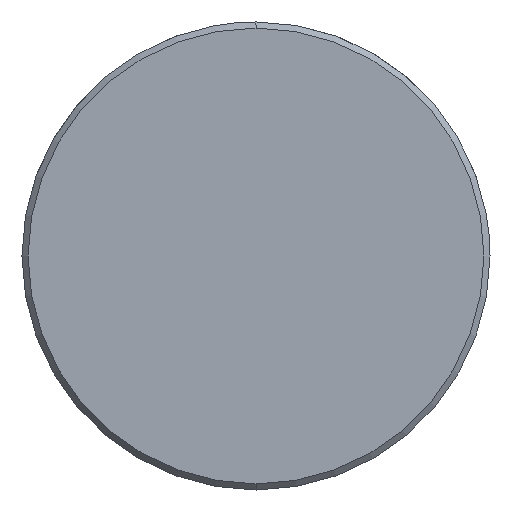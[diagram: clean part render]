
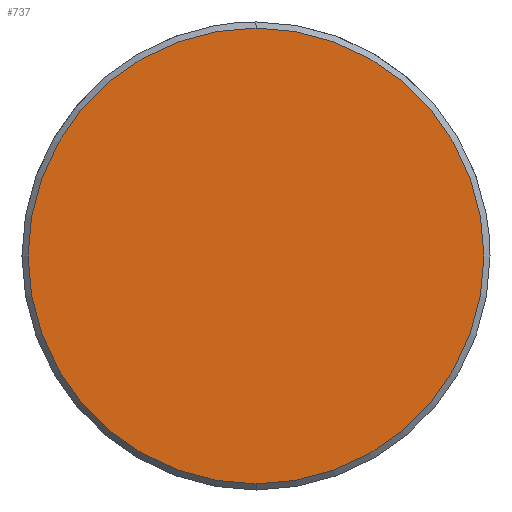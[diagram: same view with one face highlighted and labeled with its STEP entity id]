
A CAD part, left-side view. The second image highlights one B-rep face of the part: STEP entity #737.
In plain terms, the highlighted planar face has unit normal (-1, 0, 0).
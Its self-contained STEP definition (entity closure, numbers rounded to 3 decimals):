
#669=CARTESIAN_POINT('Vertex',(0.,0.,-11.2)) ;
#672=CARTESIAN_POINT('Axis2P3D Location',(0.,0.,0.)) ;
#676=CARTESIAN_POINT('Vertex',(0.,11.2,0.)) ;
#679=CARTESIAN_POINT('Axis2P3D Location',(0.,0.,0.)) ;
#683=CARTESIAN_POINT('Vertex',(0.,0.,11.2)) ;
#705=CARTESIAN_POINT('Axis2P3D Location',(0.,0.,0.)) ;
#709=CARTESIAN_POINT('Vertex',(0.,-11.2,0.)) ;
#712=CARTESIAN_POINT('Axis2P3D Location',(0.,0.,0.)) ;
#726=CARTESIAN_POINT('Axis2P3D Location',(0.,0.,0.)) ;
#673=DIRECTION('Axis2P3D Direction',(1.,0.,-0.)) ;
#680=DIRECTION('Axis2P3D Direction',(1.,0.,-0.)) ;
#706=DIRECTION('Axis2P3D Direction',(1.,0.,-0.)) ;
#713=DIRECTION('Axis2P3D Direction',(1.,0.,-0.)) ;
#727=DIRECTION('Axis2P3D Direction',(1.,0.,-0.)) ;
#728=DIRECTION('Axis2P3D XDirection',(-0.,0.,-1.)) ;
#674=AXIS2_PLACEMENT_3D('Circle Axis2P3D',#672,#673,$) ;
#681=AXIS2_PLACEMENT_3D('Circle Axis2P3D',#679,#680,$) ;
#707=AXIS2_PLACEMENT_3D('Circle Axis2P3D',#705,#706,$) ;
#714=AXIS2_PLACEMENT_3D('Circle Axis2P3D',#712,#713,$) ;
#729=AXIS2_PLACEMENT_3D('Plane Axis2P3D',#726,#727,#728) ;
#732=ORIENTED_EDGE('',*,*,#678,.F.) ;
#733=ORIENTED_EDGE('',*,*,#716,.F.) ;
#734=ORIENTED_EDGE('',*,*,#711,.F.) ;
#735=ORIENTED_EDGE('',*,*,#685,.F.) ;
#737=ADVANCED_FACE('549-20X80',(#736),#730,.F.) ;
#675=CIRCLE('generated circle',#674,11.2) ;
#682=CIRCLE('generated circle',#681,11.2) ;
#708=CIRCLE('generated circle',#707,11.2) ;
#715=CIRCLE('generated circle',#714,11.2) ;
#678=EDGE_CURVE('',#670,#677,#675,.T.) ;
#685=EDGE_CURVE('',#677,#684,#682,.T.) ;
#711=EDGE_CURVE('',#684,#710,#708,.T.) ;
#716=EDGE_CURVE('',#710,#670,#715,.T.) ;
#731=EDGE_LOOP('',(#732,#733,#734,#735)) ;
#736=FACE_OUTER_BOUND('',#731,.T.) ;
#730=PLANE('Plane',#729) ;
#670=VERTEX_POINT('',#669) ;
#677=VERTEX_POINT('',#676) ;
#684=VERTEX_POINT('',#683) ;
#710=VERTEX_POINT('',#709) ;
